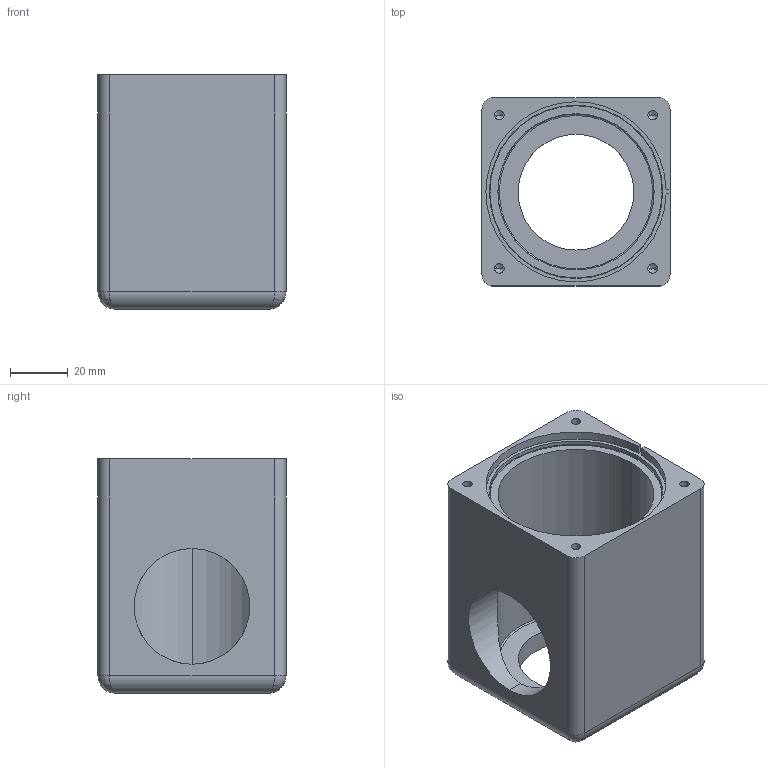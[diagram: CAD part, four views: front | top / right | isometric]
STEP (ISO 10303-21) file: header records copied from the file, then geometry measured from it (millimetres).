
FILE_DESCRIPTION (( 'STEP AP203' ), '1' );
FILE_NAME ('NAC-KF40-·§Ìå.step', '2026-05-10T07:04:52', ( '' ), ( '' ), 'SwSTEP 2.0', 'SolidWorks 2025', '' );
FILE_SCHEMA (( 'CONFIG_CONTROL_DESIGN' ));
Length unit declared in the file: millimetre
Products named in the file (1): NAC-KF40-阀体
Bounding box: 65 x 65 x 81 mm (x, y, z)
Volume: 147954.9 mm3; surface area: 38409.7 mm2
Topology: 1 solids, 1 shells, 52 faces, 125 edges, 68 vertices
Faces by surface type: cylinder 25, plane 11, cone 8, torus 4, bspline 4
Entity records: 1782 total; most frequent: CARTESIAN_POINT 566, DIRECTION 249, ORIENTED_EDGE 226, EDGE_CURVE 113, AXIS2_PLACEMENT_3D 97, VERTEX_POINT 68, EDGE_LOOP 61, VECTOR 55
